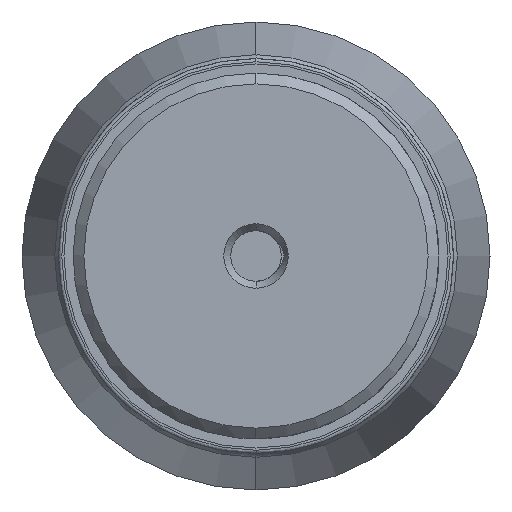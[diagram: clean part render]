
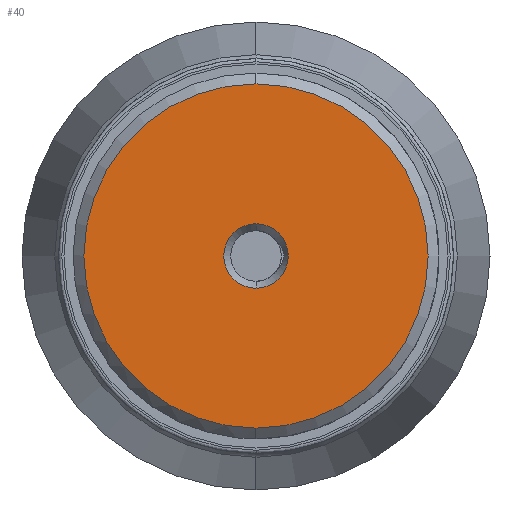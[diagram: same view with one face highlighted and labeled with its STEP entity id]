
A CAD part, left-side view. The second image highlights one B-rep face of the part: STEP entity #40.
In plain terms, the highlighted planar face has unit normal (-1, 0, 0).
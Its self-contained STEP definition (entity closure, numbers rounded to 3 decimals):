
#40=ADVANCED_FACE('',(#88,#89),#87,.T.);
#87=PLANE('',#566);
#88=FACE_OUTER_BOUND('',#567,.T.);
#89=FACE_BOUND('',#568,.T.);
#563=CARTESIAN_POINT('',(-19.,-33.255,-36.8));
#564=DIRECTION('',(-1.,0.,0.));
#565=DIRECTION('',(0.,0.,1.));
#566=AXIS2_PLACEMENT_3D('',#563,#564,#565);
#567=EDGE_LOOP('',(#1086,#1087));
#568=EDGE_LOOP('',(#1088,#1089));
#1086=ORIENTED_EDGE('',*,*,#1294,.T.);
#1087=ORIENTED_EDGE('',*,*,#1295,.T.);
#1088=ORIENTED_EDGE('',*,*,#1296,.F.);
#1089=ORIENTED_EDGE('',*,*,#1297,.F.);
#1294=EDGE_CURVE('',#1398,#1399,#1400,.T.);
#1295=EDGE_CURVE('',#1399,#1398,#1406,.T.);
#1296=EDGE_CURVE('',#1412,#1413,#1414,.T.);
#1297=EDGE_CURVE('',#1413,#1412,#1420,.T.);
#1398=VERTEX_POINT('',#2085);
#1399=VERTEX_POINT('',#2086);
#1400=CIRCLE('',#2090,16.);
#1406=CIRCLE('',#2094,16.);
#1412=VERTEX_POINT('',#2095);
#1413=VERTEX_POINT('',#2096);
#1414=CIRCLE('',#2100,3.);
#1420=CIRCLE('',#2104,3.);
#2085=CARTESIAN_POINT('',(-19.,0.,16.));
#2086=CARTESIAN_POINT('',(-19.,0.,-16.));
#2087=CARTESIAN_POINT('',(-19.,0.,0.));
#2088=DIRECTION('',(-1.,0.,0.));
#2089=DIRECTION('',(0.,0.,1.));
#2090=AXIS2_PLACEMENT_3D('',#2087,#2088,#2089);
#2091=CARTESIAN_POINT('',(-19.,0.,0.));
#2092=DIRECTION('',(-1.,0.,0.));
#2093=DIRECTION('',(0.,0.,1.));
#2094=AXIS2_PLACEMENT_3D('',#2091,#2092,#2093);
#2095=CARTESIAN_POINT('',(-19.,0.,-3.));
#2096=CARTESIAN_POINT('',(-19.,0.,3.));
#2097=CARTESIAN_POINT('',(-19.,0.,0.));
#2098=DIRECTION('',(-1.,0.,0.));
#2099=DIRECTION('',(0.,0.,1.));
#2100=AXIS2_PLACEMENT_3D('',#2097,#2098,#2099);
#2101=CARTESIAN_POINT('',(-19.,0.,0.));
#2102=DIRECTION('',(-1.,0.,0.));
#2103=DIRECTION('',(0.,0.,1.));
#2104=AXIS2_PLACEMENT_3D('',#2101,#2102,#2103);
